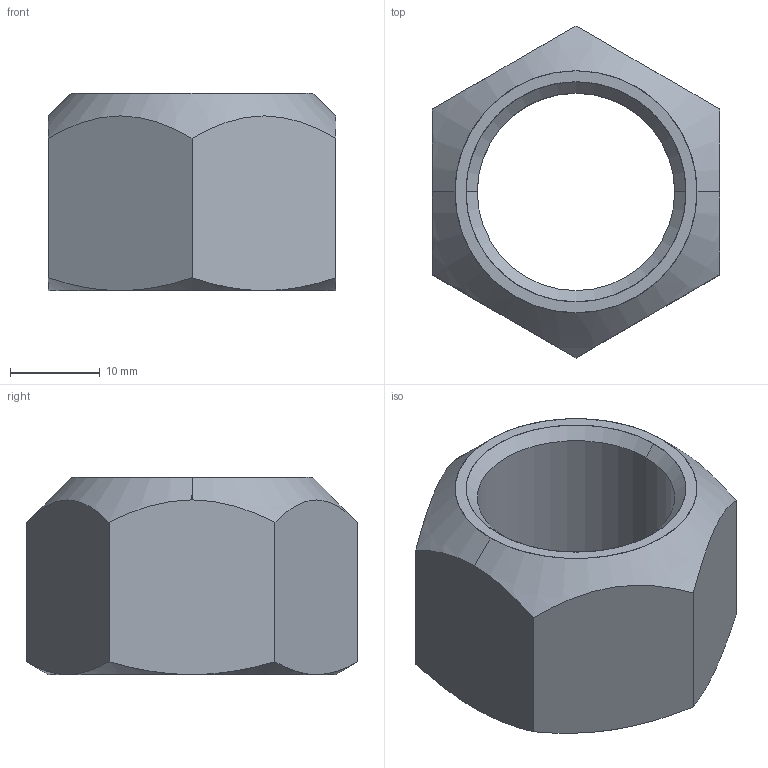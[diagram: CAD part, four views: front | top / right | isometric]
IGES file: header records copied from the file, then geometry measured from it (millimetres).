
Start section: SolidWorks IGES file using analytic representation for surfaces
Global section: file name: C:\Users\liam_\OneDrive\Documents\WORK\Work for WixRoyd\Job Files\J-00021 - Matt Davis CAD Checking\04. CAD Drawings\automotion20190729\P0308.ZP_v2\P0308.ZP_v2_20190913_IGES\P0308.220-ZP.igs; native system: SolidWorks 2017; preprocessor: SolidWorks 2017; author: liam_; date: 190913.214421; units: millimetre
Bounding box: 32 x 36.95 x 22 mm (x, y, z)
Surface area: 4589.7 mm2 (no closed solid volume)
Topology: 0 solids, 0 shells, 18 faces, 400 edges, 400 vertices
Faces by surface type: revolution 10, bspline 8
